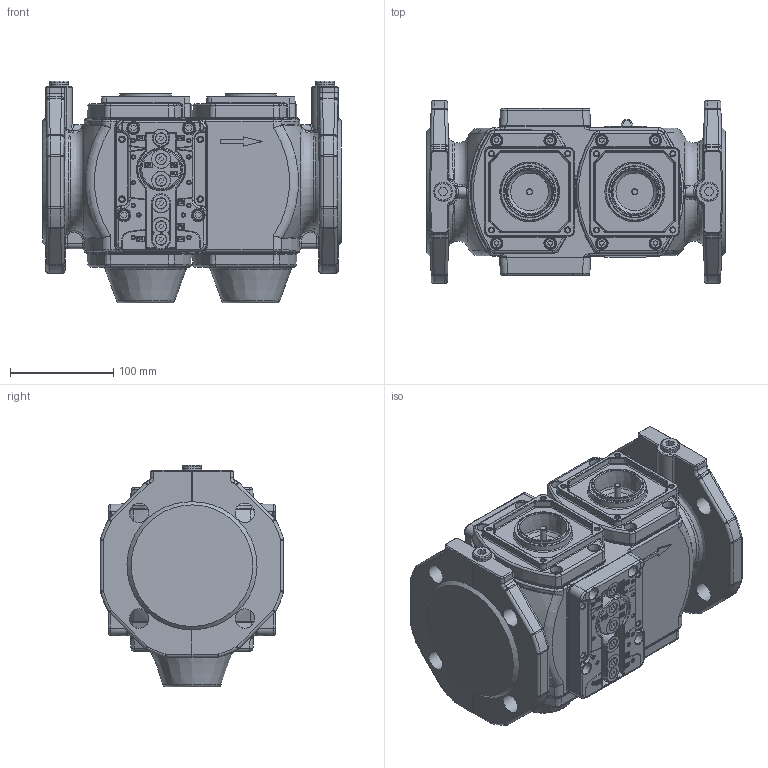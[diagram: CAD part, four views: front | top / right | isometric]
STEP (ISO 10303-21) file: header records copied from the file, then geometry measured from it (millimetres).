
FILE_DESCRIPTION(/* description */ (''),/* implementation_level */ '2;1');
FILE_NAME(/* name */ 'A5W00027772_02.stp',/* time_stamp */ '2018-07-02T08:13:09+02:00',/* author */ (''),/* organization */ (''),/* preprocessor_version */ 'ST-DEVELOPER v16',/* originating_system */ 'SIEMENS PLM Software NX 10.0',/* authorisation */ '');
FILE_SCHEMA (('AUTOMOTIVE_DESIGN { 1 0 10303 214 3 1 1 1 }'));
Products named in the file (1): Gant19840255867w
Bounding box: 290 x 178 x 215 mm (x, y, z)
Volume: 5763714.7 mm3; surface area: 332191.6 mm2
Topology: 1 solids, 3 shells, 3013 faces, 7334 edges, 4537 vertices
Faces by surface type: plane 1183, cylinder 695, bspline 442, cone 271, torus 258, extrusion 120, sphere 44
Full cylindrical faces by diameter (mm): 5.188 x2, 5.3 x6, 6 x2, 10 x24, 10.5 x12, 11 x12, 13.5 x2, 18 x2, 18.5 x2, 19 x8
Entity records: 95304 total; most frequent: CARTESIAN_POINT 29163, ORIENTED_EDGE 13536, DIRECTION 13340, EDGE_CURVE 6768, AXIS2_PLACEMENT_3D 5080, VERTEX_POINT 4391, EDGE_LOOP 3663, VECTOR 3180
